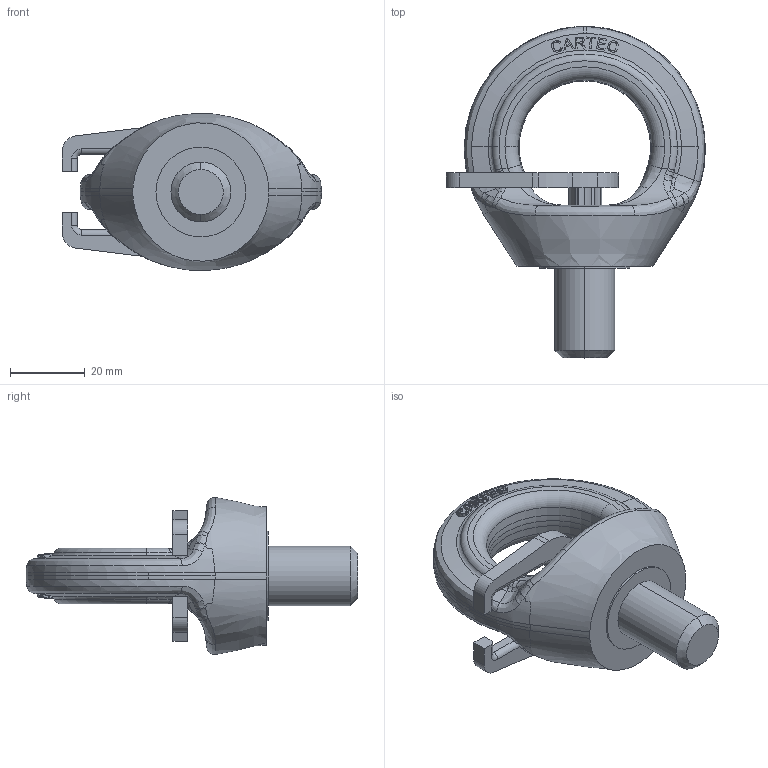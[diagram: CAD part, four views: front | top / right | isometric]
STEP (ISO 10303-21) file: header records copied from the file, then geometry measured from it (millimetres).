
FILE_DESCRIPTION(('STEP AP214'),'1');
FILE_NAME('c807ht16.stp','2017-03-27T13:25:44',('TraceParts'),('TraceParts S.A.'),'Spatial InterOp 3D',' ',' ');
FILE_SCHEMA(('automotive_design'));
Length unit declared in the file: millimetre
Products named in the file (3): c807ht16_1; c807ht16_2; c807ht16_3
Bounding box: 69.27 x 88.77 x 41.99 mm (x, y, z)
Volume: 50963.1 mm3; surface area: 17669.9 mm2
Topology: 3 solids, 3 shells, 413 faces, 1078 edges, 678 vertices
Faces by surface type: bspline 155, plane 134, cylinder 68, torus 36, cone 20
Entity records: 27530 total; most frequent: CARTESIAN_POINT 14939, ORIENTED_EDGE 2136, DIRECTION 1645, EDGE_CURVE 1068, VERTEX_POINT 678, AXIS2_PLACEMENT_3D 628, EDGE_LOOP 434, STYLED_ITEM 416
